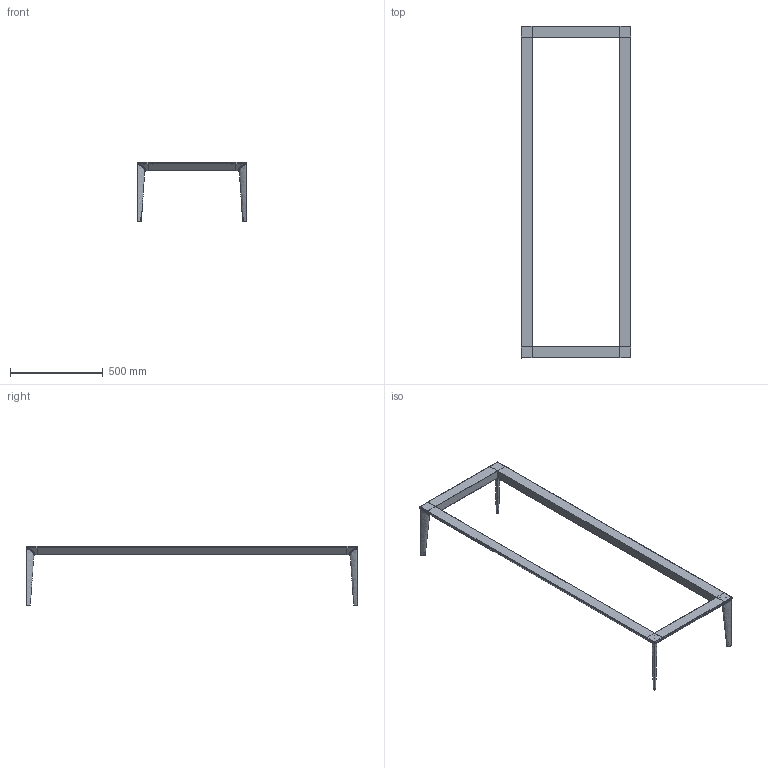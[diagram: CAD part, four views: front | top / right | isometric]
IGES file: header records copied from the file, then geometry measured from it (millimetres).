
Global section: file name: C:\Users\alberto.volpato\Desktop\Files\BASE3.igs; native system: Rhinoceros ( Mar  9 2011 ); preprocessor: Trout Lake IGES 012 Mar  9 2011; date: 160505.081138; units: millimetre
Bounding box: 594.09 x 1794.07 x 323.19 mm (x, y, z)
Surface area: 1060054.3 mm2 (no closed solid volume)
Topology: 0 solids, 0 shells, 533 faces, 4613 edges, 4587 vertices
Faces by surface type: bspline 533
